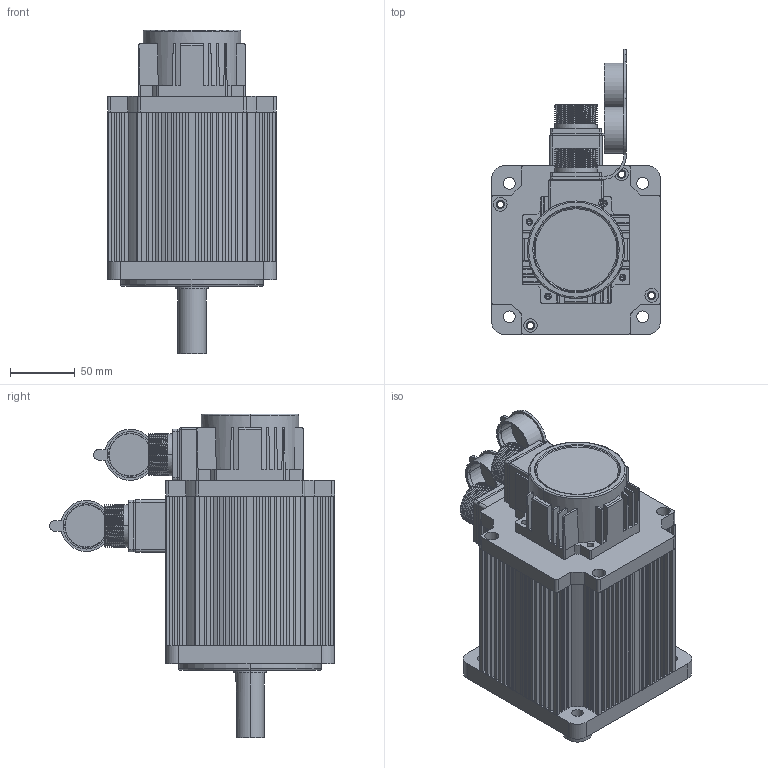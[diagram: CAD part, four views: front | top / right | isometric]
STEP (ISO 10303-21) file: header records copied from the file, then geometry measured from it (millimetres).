
FILE_DESCRIPTION (( 'STEP AP203' ), '1' );
FILE_NAME ('130 7.7N.M装配体.STEP', '2018-10-19T01:02:22', ( '微软用户' ), ( '微软中国' ), 'SwSTEP 2.0', 'SolidWorks 2016', '' );
FILE_SCHEMA (( 'CONFIG_CONTROL_DESIGN' ));
Length unit declared in the file: millimetre
Products named in the file (16): 粣創6205; 瑤脣價釱; 130ヶ裔; 瑤脣々菜; 130綴裔; 130-4郋瑤脣釱; 晤鎢ん; 15郋瑤脣; 晤鎢ん欶; 15郋瑤脣釱; 130蛌赽; 130  7.7N.M蚾饜极; 130 7.7N.M粣; 130儂褲; 粣創6305; 4郋瑤脣
Assembly tree (16 placements, depth 3):
  130  7.7N.M蚾饜极
    粣創6305
    粣創6205
    130ヶ裔
    130綴裔
    晤鎢ん
    晤鎢ん欶
    130蛌赽
    130 7.7N.M粣
    130儂褲
    130-4郋瑤脣釱
      4郋瑤脣
      瑤脣價釱
      瑤脣々菜
    15郋瑤脣釱
      15郋瑤脣
      瑤脣々菜
Bounding box: 130 x 219.29 x 249 mm (x, y, z)
Volume: 1184398 mm3; surface area: 484828.1 mm2
Topology: 15 solids, 17 shells, 1549 faces, 4103 edges, 2645 vertices
Faces by surface type: plane 721, cylinder 690, torus 55, cone 39, sphere 36, bspline 8
Entity records: 51484 total; most frequent: CARTESIAN_POINT 12168, DIRECTION 7989, ORIENTED_EDGE 7790, EDGE_CURVE 3895, AXIS2_PLACEMENT_3D 2857, VERTEX_POINT 2545, VECTOR 2275, LINE 2275
